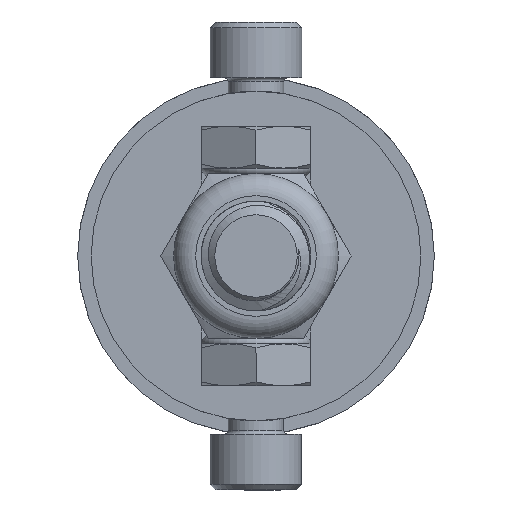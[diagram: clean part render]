
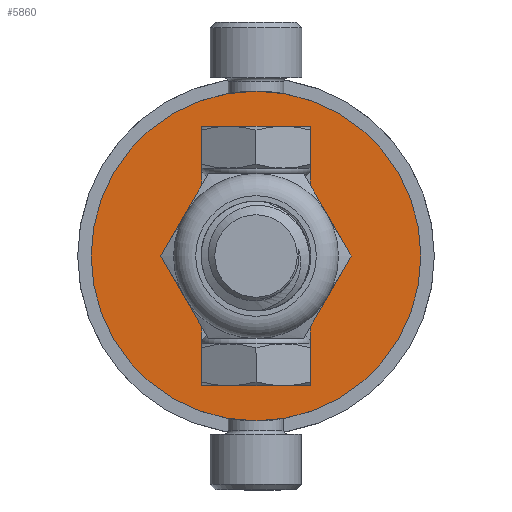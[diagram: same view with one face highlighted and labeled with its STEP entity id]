
A CAD part, left-side view. The second image highlights one B-rep face of the part: STEP entity #5860.
In plain terms, the highlighted planar face has unit normal (-1, 0, 0) as drawn and (0, 1, 0) by its records, which use the part's own axes.
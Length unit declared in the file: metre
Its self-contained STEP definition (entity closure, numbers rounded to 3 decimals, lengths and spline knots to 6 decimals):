
#833=CIRCLE('',#6779,0.014288);
#2233=ORIENTED_EDGE('',*,*,#3194,.F.);
#2234=ORIENTED_EDGE('',*,*,#3186,.F.);
#2235=ORIENTED_EDGE('',*,*,#3184,.T.);
#2236=ORIENTED_EDGE('',*,*,#3189,.T.);
#2237=ORIENTED_EDGE('',*,*,#3193,.F.);
#2238=ORIENTED_EDGE('',*,*,#3191,.F.);
#2239=ORIENTED_EDGE('',*,*,#3176,.T.);
#2240=ORIENTED_EDGE('',*,*,#3171,.F.);
#2241=ORIENTED_EDGE('',*,*,#3178,.F.);
#2242=ORIENTED_EDGE('',*,*,#3196,.F.);
#2243=ORIENTED_EDGE('',*,*,#3161,.T.);
#3161=EDGE_CURVE('',#3746,#3746,#833,.T.);
#3171=EDGE_CURVE('',#3754,#3755,#4143,.T.);
#3176=EDGE_CURVE('',#3757,#3755,#4148,.T.);
#3178=EDGE_CURVE('',#3758,#3754,#4150,.T.);
#3184=EDGE_CURVE('',#3762,#3761,#4156,.T.);
#3186=EDGE_CURVE('',#3762,#3763,#4158,.T.);
#3189=EDGE_CURVE('',#3761,#3764,#4161,.T.);
#3191=EDGE_CURVE('',#3757,#3766,#4162,.T.);
#3193=EDGE_CURVE('',#3766,#3764,#4164,.T.);
#3194=EDGE_CURVE('',#3763,#3767,#4165,.T.);
#3196=EDGE_CURVE('',#3767,#3758,#4167,.T.);
#3746=VERTEX_POINT('',#12621);
#3754=VERTEX_POINT('',#12641);
#3755=VERTEX_POINT('',#12643);
#3757=VERTEX_POINT('',#12652);
#3758=VERTEX_POINT('',#12656);
#3761=VERTEX_POINT('',#12666);
#3762=VERTEX_POINT('',#12668);
#3763=VERTEX_POINT('',#12672);
#3764=VERTEX_POINT('',#12676);
#3766=VERTEX_POINT('',#12684);
#3767=VERTEX_POINT('',#12690);
#4143=LINE('',#12642,#4433);
#4148=LINE('',#12651,#4438);
#4150=LINE('',#12655,#4440);
#4156=LINE('',#12667,#4446);
#4158=LINE('',#12671,#4448);
#4161=LINE('',#12677,#4451);
#4162=LINE('',#12683,#4452);
#4164=LINE('',#12687,#4454);
#4165=LINE('',#12689,#4455);
#4167=LINE('',#12693,#4457);
#4433=VECTOR('',#8450,1.);
#4438=VECTOR('',#8459,1.);
#4440=VECTOR('',#8463,1.);
#4446=VECTOR('',#8473,1.);
#4448=VECTOR('',#8477,1.);
#4451=VECTOR('',#8482,1.);
#4452=VECTOR('',#8491,1.);
#4454=VECTOR('',#8495,1.);
#4455=VECTOR('',#8498,1.);
#4457=VECTOR('',#8502,1.);
#4800=EDGE_LOOP('',(#2233,#2234,#2235,#2236,#2237,#2238,#2239,#2240,#2241,
#2242));
#4801=EDGE_LOOP('',(#2243));
#5280=FACE_BOUND('',#4800,.T.);
#5281=FACE_BOUND('',#4801,.T.);
#5552=PLANE('',#6801);
#5860=ADVANCED_FACE('',(#5280,#5281),#5552,.T.);
#6779=AXIS2_PLACEMENT_3D('',#12620,#8429,#8430);
#6801=AXIS2_PLACEMENT_3D('',#12694,#8503,#8504);
#8429=DIRECTION('',(0.,1.,0.));
#8430=DIRECTION('',(0.,0.,1.));
#8450=DIRECTION('',(-1.,0.,0.));
#8459=DIRECTION('',(0.,0.,-1.));
#8463=DIRECTION('',(0.,0.,-1.));
#8473=DIRECTION('',(-1.,0.,0.));
#8477=DIRECTION('',(0.,0.,-1.));
#8482=DIRECTION('',(0.,0.,-1.));
#8491=DIRECTION('',(-0.5,0.,0.866));
#8495=DIRECTION('',(0.5,0.,0.866));
#8498=DIRECTION('',(0.5,0.,-0.866));
#8502=DIRECTION('',(-0.5,0.,-0.866));
#8503=DIRECTION('',(0.,1.,0.));
#8504=DIRECTION('',(-1.,0.,0.));
#12620=CARTESIAN_POINT('',(0.,0.026988,0.));
#12621=CARTESIAN_POINT('',(0.,0.026988,0.014288));
#12641=CARTESIAN_POINT('',(0.004699,0.026988,-0.011252));
#12642=CARTESIAN_POINT('',(0.,0.026988,-0.011252));
#12643=CARTESIAN_POINT('',(-0.004699,0.026988,-0.011252));
#12651=CARTESIAN_POINT('',(-0.004699,0.026988,-0.006324));
#12652=CARTESIAN_POINT('',(-0.004699,0.026988,-0.006149));
#12655=CARTESIAN_POINT('',(0.004699,0.026988,-0.006324));
#12656=CARTESIAN_POINT('',(0.004699,0.026988,-0.006149));
#12666=CARTESIAN_POINT('',(-0.004699,0.026988,0.011252));
#12667=CARTESIAN_POINT('',(0.,0.026988,0.011252));
#12668=CARTESIAN_POINT('',(0.004699,0.026988,0.011252));
#12671=CARTESIAN_POINT('',(0.004699,0.026988,0.006324));
#12672=CARTESIAN_POINT('',(0.004699,0.026988,0.006149));
#12676=CARTESIAN_POINT('',(-0.004699,0.026988,0.006149));
#12677=CARTESIAN_POINT('',(-0.004699,0.026988,0.006324));
#12683=CARTESIAN_POINT('',(-0.006474,0.026988,-0.003074));
#12684=CARTESIAN_POINT('',(-0.008249,0.026988,0.));
#12687=CARTESIAN_POINT('',(-0.006474,0.026988,0.003074));
#12689=CARTESIAN_POINT('',(0.006474,0.026988,0.003074));
#12690=CARTESIAN_POINT('',(0.008249,0.026988,0.));
#12693=CARTESIAN_POINT('',(0.006474,0.026988,-0.003074));
#12694=CARTESIAN_POINT('',(0.,0.026988,0.));
